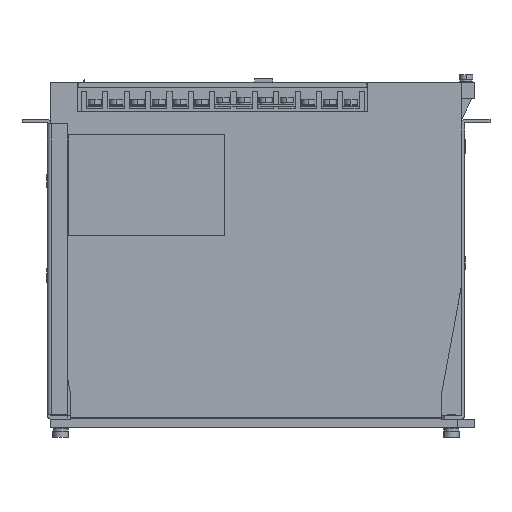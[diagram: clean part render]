
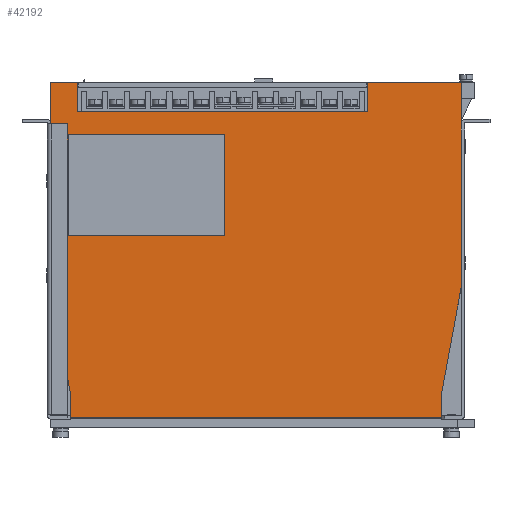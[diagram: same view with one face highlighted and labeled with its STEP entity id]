
A CAD part, left-side view. The second image highlights one B-rep face of the part: STEP entity #42192.
In plain terms, the highlighted planar face has unit normal (-1, 0, 0).
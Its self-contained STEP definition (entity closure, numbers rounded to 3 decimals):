
#2983 = CARTESIAN_POINT ( 'NONE',  ( -105., 6., 70.5 ) ) ;
#3269 = DIRECTION ( 'NONE',  ( 0., 0., -1. ) ) ;
#3270 = VECTOR ( 'NONE', #3269, 1000. ) ;
#3271 = CARTESIAN_POINT ( 'NONE',  ( -105., 6., 467.13 ) ) ;
#3272 = LINE ( 'NONE', #3271, #3270 ) ;
#5445 = CARTESIAN_POINT ( 'NONE',  ( -105., -186.7, 210. ) ) ;
#5446 = CARTESIAN_POINT ( 'NONE',  ( -105., -186.7, 192.2 ) ) ;
#5481 = CARTESIAN_POINT ( 'NONE',  ( -105., -10.5, 192.2 ) ) ;
#5483 = DIRECTION ( 'NONE',  ( 0., 0., 1. ) ) ;
#5484 = VECTOR ( 'NONE', #5483, 1000. ) ;
#5485 = CARTESIAN_POINT ( 'NONE',  ( -105., -10.5, 192.2 ) ) ;
#5486 = LINE ( 'NONE', #5485, #5484 ) ;
#5491 = CARTESIAN_POINT ( 'NONE',  ( -105., -10.5, 210. ) ) ;
#5629 = DIRECTION ( 'NONE',  ( 0., 0., 1. ) ) ;
#5630 = VECTOR ( 'NONE', #5629, 1000. ) ;
#5631 = CARTESIAN_POINT ( 'NONE',  ( -105., -186.7, 192.2 ) ) ;
#5632 = LINE ( 'NONE', #5631, #5630 ) ;
#9850 = DIRECTION ( 'NONE',  ( 0., 0., -1. ) ) ;
#9851 = DIRECTION ( 'NONE',  ( 1., 0., 0. ) ) ;
#9852 = CARTESIAN_POINT ( 'NONE',  ( -105., 6., 483.13 ) ) ;
#9853 = AXIS2_PLACEMENT_3D ( 'NONE', #9852, #9851, #9850 ) ;
#9855 = PLANE ( 'NONE',  #9853 ) ;
#9856 = FACE_BOUND ( 'NONE', #51032, .T. ) ;
#9857 = FACE_OUTER_BOUND ( 'NONE', #31152, .T. ) ;
#11984 = CARTESIAN_POINT ( 'NONE',  ( -105., -5., 178.5 ) ) ;
#12135 = DIRECTION ( 'NONE',  ( 0., -1., 0. ) ) ;
#12136 = VECTOR ( 'NONE', #12135, 1000. ) ;
#12137 = CARTESIAN_POINT ( 'NONE',  ( -105., -6., 5.7 ) ) ;
#12138 = LINE ( 'NONE', #12137, #12136 ) ;
#12645 = DIRECTION ( 'NONE',  ( 0., -0.182, 0.983 ) ) ;
#12646 = VECTOR ( 'NONE', #12645, 1000. ) ;
#12647 = CARTESIAN_POINT ( 'NONE',  ( -105., -232., 20.5 ) ) ;
#12648 = LINE ( 'NONE', #12647, #12646 ) ;
#12918 = DIRECTION ( 'NONE',  ( 0., -1., 0. ) ) ;
#12919 = VECTOR ( 'NONE', #12918, 1000. ) ;
#12920 = CARTESIAN_POINT ( 'NONE',  ( -105., -10.5, 192.2 ) ) ;
#12921 = LINE ( 'NONE', #12920, #12919 ) ;
#13258 = DIRECTION ( 'NONE',  ( 0., -1., 0. ) ) ;
#13259 = VECTOR ( 'NONE', #13258, 1000. ) ;
#13260 = CARTESIAN_POINT ( 'NONE',  ( -105., 6., 70.5 ) ) ;
#13261 = LINE ( 'NONE', #13260, #13259 ) ;
#13287 = DIRECTION ( 'NONE',  ( 0., 0.182, 0.983 ) ) ;
#13288 = VECTOR ( 'NONE', #13287, 1000. ) ;
#13289 = CARTESIAN_POINT ( 'NONE',  ( -105., -6., 20.5 ) ) ;
#13290 = LINE ( 'NONE', #13289, #13288 ) ;
#13337 = CARTESIAN_POINT ( 'NONE',  ( -105., 3.231, 70.5 ) ) ;
#14001 = DIRECTION ( 'NONE',  ( 0., -1., 0. ) ) ;
#14002 = VECTOR ( 'NONE', #14001, 1000. ) ;
#14003 = CARTESIAN_POINT ( 'NONE',  ( -105., -5., 116.5 ) ) ;
#14004 = LINE ( 'NONE', #14003, #14002 ) ;
#14042 = CARTESIAN_POINT ( 'NONE',  ( -105., -5., 116.5 ) ) ;
#14585 = DIRECTION ( 'NONE',  ( 0., 0., -1. ) ) ;
#14586 = VECTOR ( 'NONE', #14585, 1000. ) ;
#14587 = CARTESIAN_POINT ( 'NONE',  ( -105., -5., 116.5 ) ) ;
#14588 = LINE ( 'NONE', #14587, #14586 ) ;
#17234 = DIRECTION ( 'NONE',  ( 0., -1., 0. ) ) ;
#17235 = VECTOR ( 'NONE', #17234, 1000. ) ;
#17236 = CARTESIAN_POINT ( 'NONE',  ( -105., 6., 210. ) ) ;
#17237 = LINE ( 'NONE', #17236, #17235 ) ;
#17238 = CARTESIAN_POINT ( 'NONE',  ( -105., 6., 210. ) ) ;
#17282 = CARTESIAN_POINT ( 'NONE',  ( -105., -244., 210. ) ) ;
#17283 = DIRECTION ( 'NONE',  ( 0., -1., 0. ) ) ;
#17284 = VECTOR ( 'NONE', #17283, 1000. ) ;
#17285 = CARTESIAN_POINT ( 'NONE',  ( -105., 6., 210. ) ) ;
#17286 = LINE ( 'NONE', #17285, #17284 ) ;
#18795 = CARTESIAN_POINT ( 'NONE',  ( -105., -100., 178.5 ) ) ;
#18796 = CARTESIAN_POINT ( 'NONE',  ( -105., -100., 116.5 ) ) ;
#18804 = DIRECTION ( 'NONE',  ( 0., 0., 1. ) ) ;
#18805 = VECTOR ( 'NONE', #18804, 1000. ) ;
#18806 = CARTESIAN_POINT ( 'NONE',  ( -105., -100., 116.5 ) ) ;
#18807 = LINE ( 'NONE', #18806, #18805 ) ;
#19084 = DIRECTION ( 'NONE',  ( 0., 1., 0. ) ) ;
#19085 = VECTOR ( 'NONE', #19084, 1000. ) ;
#19086 = CARTESIAN_POINT ( 'NONE',  ( -105., -5., 178.5 ) ) ;
#19087 = LINE ( 'NONE', #19086, #19085 ) ;
#22780 = VERTEX_POINT ( 'NONE', #51157 ) ;
#22827 = EDGE_CURVE ( 'NONE', #46454, #22780, #51216, .T. ) ;
#22899 = VERTEX_POINT ( 'NONE', #51293 ) ;
#23041 = VERTEX_POINT ( 'NONE', #51580 ) ;
#23301 = EDGE_CURVE ( 'NONE', #22899, #23041, #52004, .T. ) ;
#23916 = VERTEX_POINT ( 'NONE', #52993 ) ;
#29162 = ORIENTED_EDGE ( 'NONE', *, *, #39544, .T. ) ;
#30778 = ORIENTED_EDGE ( 'NONE', *, *, #44001, .F. ) ;
#31152 = EDGE_LOOP ( 'NONE', ( #30778, #29162, #32890, #43906, #44159, #44002, #42486, #42545, #43599, #43600, #52167, #52175, #52177 ) ) ;
#32890 = ORIENTED_EDGE ( 'NONE', *, *, #46444, .F. ) ;
#33134 = EDGE_CURVE ( 'NONE', #23916, #33211, #67621, .T. ) ;
#33211 = VERTEX_POINT ( 'NONE', #67762 ) ;
#38116 = VERTEX_POINT ( 'NONE', #2983 ) ;
#38256 = EDGE_CURVE ( 'NONE', #46442, #38116, #3272, .T. ) ;
#39523 = VERTEX_POINT ( 'NONE', #5446 ) ;
#39524 = VERTEX_POINT ( 'NONE', #5445 ) ;
#39538 = VERTEX_POINT ( 'NONE', #5491 ) ;
#39544 = EDGE_CURVE ( 'NONE', #39546, #39538, #5486, .T. ) ;
#39546 = VERTEX_POINT ( 'NONE', #5481 ) ;
#39618 = EDGE_CURVE ( 'NONE', #39523, #39524, #5632, .T. ) ;
#42192 = ADVANCED_FACE ( 'NONE', ( #9857, #9856 ), #9855, .F. ) ;
#42486 = ORIENTED_EDGE ( 'NONE', *, *, #23301, .T. ) ;
#42545 = ORIENTED_EDGE ( 'NONE', *, *, #43585, .T. ) ;
#43515 = VERTEX_POINT ( 'NONE', #11984 ) ;
#43585 = EDGE_CURVE ( 'NONE', #23041, #33211, #12138, .T. ) ;
#43599 = ORIENTED_EDGE ( 'NONE', *, *, #33134, .F. ) ;
#43600 = ORIENTED_EDGE ( 'NONE', *, *, #43859, .T. ) ;
#43859 = EDGE_CURVE ( 'NONE', #23916, #22780, #12648, .T. ) ;
#43906 = ORIENTED_EDGE ( 'NONE', *, *, #38256, .T. ) ;
#44001 = EDGE_CURVE ( 'NONE', #39546, #39523, #12921, .T. ) ;
#44002 = ORIENTED_EDGE ( 'NONE', *, *, #44219, .F. ) ;
#44159 = ORIENTED_EDGE ( 'NONE', *, *, #44203, .T. ) ;
#44203 = EDGE_CURVE ( 'NONE', #38116, #44231, #13261, .T. ) ;
#44219 = EDGE_CURVE ( 'NONE', #22899, #44231, #13290, .T. ) ;
#44231 = VERTEX_POINT ( 'NONE', #13337 ) ;
#44553 = ORIENTED_EDGE ( 'NONE', *, *, #44615, .F. ) ;
#44615 = EDGE_CURVE ( 'NONE', #44629, #53747, #14004, .T. ) ;
#44629 = VERTEX_POINT ( 'NONE', #14042 ) ;
#44953 = EDGE_CURVE ( 'NONE', #43515, #44629, #14588, .T. ) ;
#44971 = ORIENTED_EDGE ( 'NONE', *, *, #44953, .F. ) ;
#46442 = VERTEX_POINT ( 'NONE', #17238 ) ;
#46444 = EDGE_CURVE ( 'NONE', #46442, #39538, #17237, .T. ) ;
#46453 = EDGE_CURVE ( 'NONE', #39524, #46454, #17286, .T. ) ;
#46454 = VERTEX_POINT ( 'NONE', #17282 ) ;
#50806 = ORIENTED_EDGE ( 'NONE', *, *, #53720, .F. ) ;
#51032 = EDGE_LOOP ( 'NONE', ( #50806, #44553, #44971, #56976 ) ) ;
#51157 = CARTESIAN_POINT ( 'NONE',  ( -105., -244., 85.5 ) ) ;
#51213 = DIRECTION ( 'NONE',  ( 0., 0., -1. ) ) ;
#51214 = VECTOR ( 'NONE', #51213, 1000. ) ;
#51215 = CARTESIAN_POINT ( 'NONE',  ( -105., -244., 467.13 ) ) ;
#51216 = LINE ( 'NONE', #51215, #51214 ) ;
#51293 = CARTESIAN_POINT ( 'NONE',  ( -105., -6., 20.5 ) ) ;
#51580 = CARTESIAN_POINT ( 'NONE',  ( -105., -6., 5.7 ) ) ;
#52001 = DIRECTION ( 'NONE',  ( 0., 0., -1. ) ) ;
#52002 = VECTOR ( 'NONE', #52001, 1000. ) ;
#52003 = CARTESIAN_POINT ( 'NONE',  ( -105., -6., 20.5 ) ) ;
#52004 = LINE ( 'NONE', #52003, #52002 ) ;
#52167 = ORIENTED_EDGE ( 'NONE', *, *, #22827, .F. ) ;
#52175 = ORIENTED_EDGE ( 'NONE', *, *, #46453, .F. ) ;
#52177 = ORIENTED_EDGE ( 'NONE', *, *, #39618, .F. ) ;
#52993 = CARTESIAN_POINT ( 'NONE',  ( -105., -232., 20.5 ) ) ;
#53720 = EDGE_CURVE ( 'NONE', #53747, #53754, #18807, .T. ) ;
#53747 = VERTEX_POINT ( 'NONE', #18796 ) ;
#53754 = VERTEX_POINT ( 'NONE', #18795 ) ;
#56976 = ORIENTED_EDGE ( 'NONE', *, *, #57024, .F. ) ;
#57024 = EDGE_CURVE ( 'NONE', #53754, #43515, #19087, .T. ) ;
#67618 = DIRECTION ( 'NONE',  ( 0., 0., -1. ) ) ;
#67619 = VECTOR ( 'NONE', #67618, 1000. ) ;
#67620 = CARTESIAN_POINT ( 'NONE',  ( -105., -232., 20.5 ) ) ;
#67621 = LINE ( 'NONE', #67620, #67619 ) ;
#67762 = CARTESIAN_POINT ( 'NONE',  ( -105., -232., 5.7 ) ) ;
